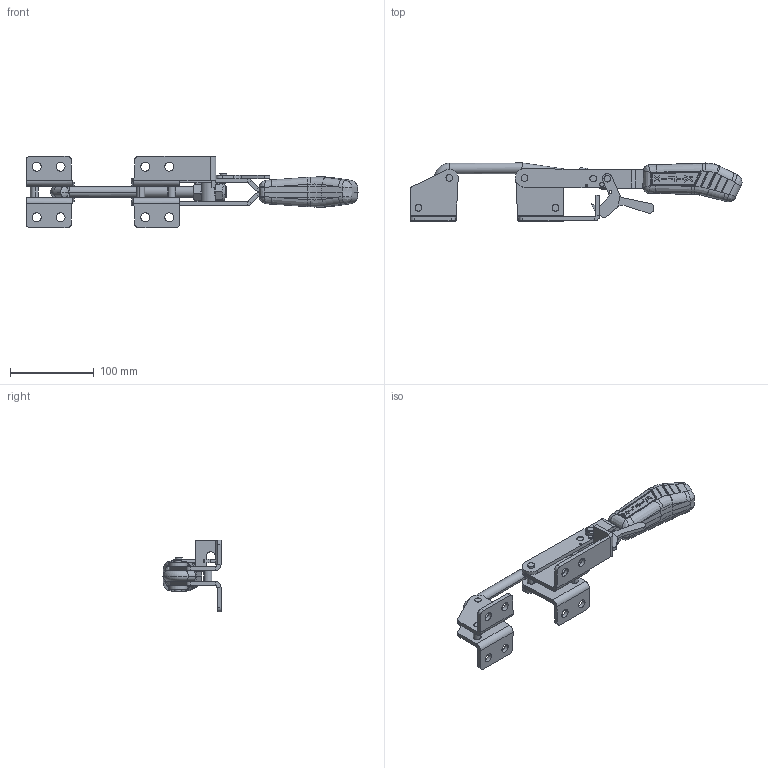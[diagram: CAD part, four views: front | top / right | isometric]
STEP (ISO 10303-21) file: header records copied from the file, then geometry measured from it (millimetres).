
FILE_DESCRIPTION (( 'STEP AP203' ), '1' );
FILE_NAME ('KF-553 DTR.STEP', '2014-08-21T18:43:49', ( 'Ricardo' ), ( '' ), 'SwSTEP 2.0', 'SolidWorks 2013', '' );
FILE_SCHEMA (( 'CONFIG_CONTROL_DESIGN' ));
Length unit declared in the file: millimetre
Products named in the file (16): 06.50048; 16.20010; 01.10064_Direita; 16.20011; KF-553 DTR; 18.10002; 03.20007; 02.12014_Direita; 11.50024; 02.12014_Esquerda; 11.50004; 02.12015_Esquerda; 07.60003; 01.10020_Direita; 06.50034; 16.20009
Assembly tree (18 placements, depth 2):
  KF-553 DTR
    02.12014_Direita  x2
    02.12014_Esquerda
    02.12015_Esquerda
    01.10020_Direita
    16.20009  x3
    16.20010
    16.20011
    18.10002
    03.20007
    11.50024
    11.50004
    07.60003
    06.50034
    06.50048
    01.10064_Direita
Bounding box: 396.15 x 69.22 x 85.5 mm (x, y, z)
Volume: 292439 mm3; surface area: 115869.9 mm2
Topology: 18 solids, 18 shells, 731 faces, 1803 edges, 1127 vertices
Faces by surface type: plane 262, cylinder 247, bspline 147, sphere 50, cone 20, torus 5
Entity records: 25752 total; most frequent: CARTESIAN_POINT 9159, ORIENTED_EDGE 3350, DIRECTION 2688, EDGE_CURVE 1675, AXIS2_PLACEMENT_3D 1052, VERTEX_POINT 1051, EDGE_LOOP 764, ADVANCED_FACE 683
